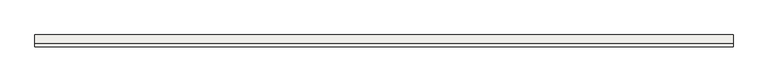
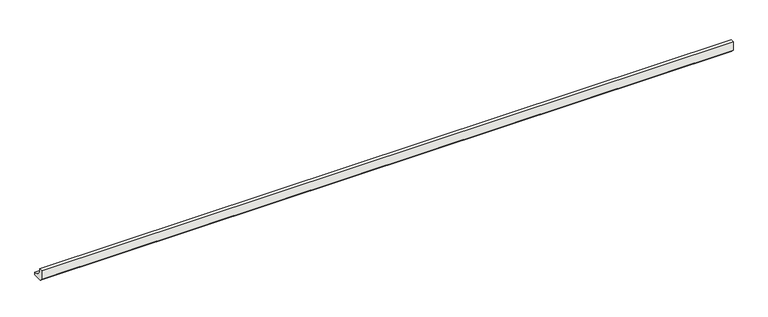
"""IFC4 building model written with IfcOpenShell, lengths in millimetres: slab geometry, ROSA GRES_188 : Pieza 188_Tresor_Java_Anti-Slip."""

from ifc_helpers import new_model, si_unit, point, frame, frame_2d, origin, place, context, project, spatial, polyline, circle_curve, trimmed, segment, composite_curve, outline, extrude, source, transform, mapped, element, save


def slab_431552fd(model_context):
    return source(origin(), model_context, "Body", "SweptSolid", [
        extrude(outline(composite_curve([segment(polyline([(0.0, 8.7114978), (0.0, 40.0), (9.9734114, 40.0)]), True, "CONTINUOUS"), segment(trimmed(circle_curve(frame_2d((39.9955547, 39.9955547)), 30.0221435), [point((9.9734114, 40.0))], [point((40.0, 9.9734114))], True, "CARTESIAN"), True, "CONTINUOUS"), segment(polyline([(40.0, 9.9734114), (40.0, 0.0), (8.7114978, 0.0), (0.0, 8.7114978)]), True, "CONTINUOUS")], self_intersect=False)), frame((0.0, 0.0, 0.0), z_axis=(1.0, 0.0, 0.0), x_axis=(0.0, 1.0, 0.0)), (0.0, 0.0, 1.0), 2360.5432129),
    ])


if __name__ == "__main__":
    model = new_model("IFC4")
    model_context = context("Model", 3, world=origin())
    ifc_project = project(units=[si_unit("LENGTHUNIT", "METRE", prefix="MILLI")], contexts=[model_context])
    site = spatial("IfcSite", under=ifc_project)
    building = spatial("IfcBuilding", under=site)
    placement = place(None, origin())
    slab_shape = slab_431552fd(model_context)
    element("IfcSlab", 1, ObjectType="ROSA GRES_188 : Pieza 188_Tresor_Java_Anti-Slip", at=placement, inside=building, context=model_context, shape_type="MappedRepresentation", body=[
        mapped(slab_shape, transform((0.0, 0.0, 0.0), x_axis=(1.0, 0.0, 0.0), y_axis=(0.0, 1.0, 0.0), z_axis=(0.0, 0.0, 1.0))),
    ])
    save(model, "model.ifc")
